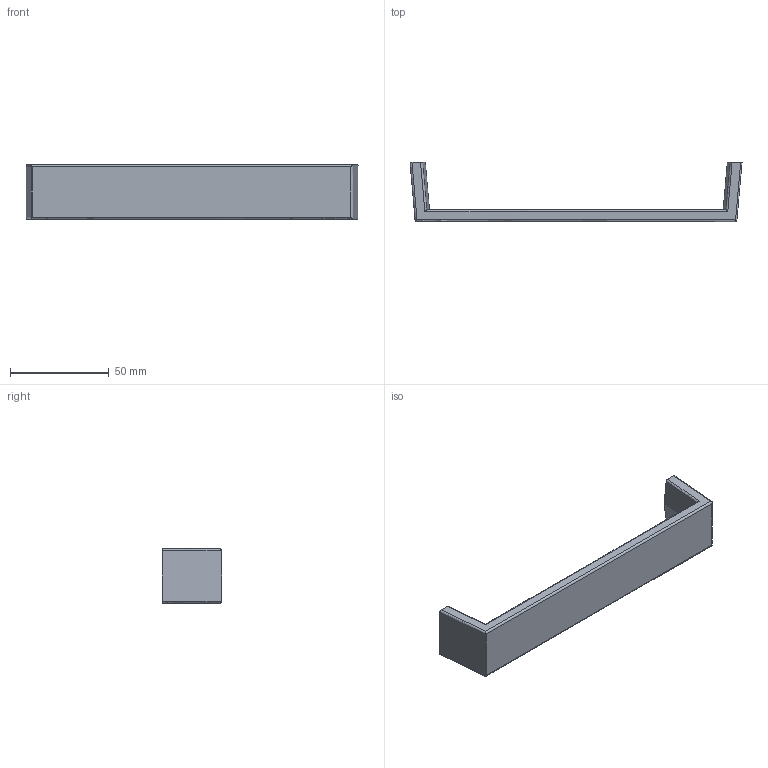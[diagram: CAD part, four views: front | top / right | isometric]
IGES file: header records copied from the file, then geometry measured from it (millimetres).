
Start section: Data from Parasolid IGES Translator 15.0.47, Copyright(c) 2006 Siemens P LM Software. All Rights Reserved.
Global section: file name:  9113510.igs; native system:  By UGS Corp.; preprocessor: XPlus GENERIC/IGES 3.0; author: Noname; organization: Noname; date: 20140122.145826; units: millimetre
Bounding box: 167.7 x 30 x 27.6 mm (x, y, z)
Surface area: 14417.2 mm2 (no closed solid volume)
Topology: 0 solids, 0 shells, 34 faces, 180 edges, 178 vertices
Faces by surface type: revolution 19, extrusion 15
